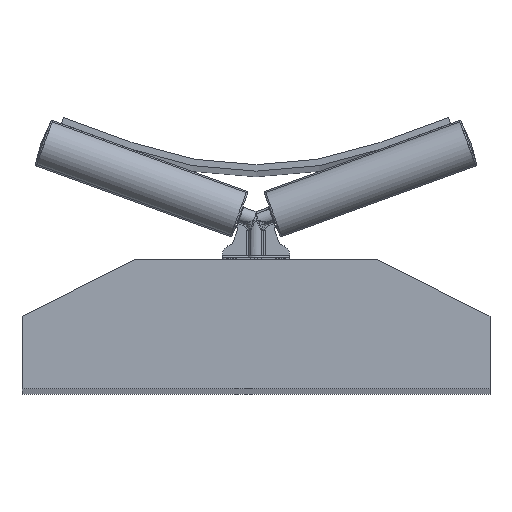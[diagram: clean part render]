
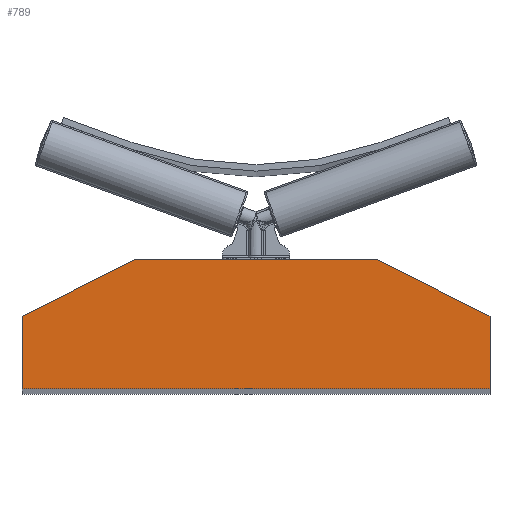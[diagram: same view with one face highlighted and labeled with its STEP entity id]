
A CAD part, top view. The second image highlights one B-rep face of the part: STEP entity #789.
In plain terms, the highlighted planar face has unit normal (0, 0, 1).
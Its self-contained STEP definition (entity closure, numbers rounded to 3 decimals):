
#30 = PLANE ( 'NONE',  #2584 ) ;
#53 = CARTESIAN_POINT ( 'NONE',  ( 0., 0., 2000. ) ) ;
#109 = VERTEX_POINT ( 'NONE', #1621 ) ;
#410 = CARTESIAN_POINT ( 'NONE',  ( 150., 160., 2000. ) ) ;
#535 = DIRECTION ( 'NONE',  ( 0., 1., 0. ) ) ;
#573 = CARTESIAN_POINT ( 'NONE',  ( 290., 0., 2000. ) ) ;
#603 = CARTESIAN_POINT ( 'NONE',  ( -290., 90., 2000. ) ) ;
#689 = CARTESIAN_POINT ( 'NONE',  ( 290., 90., 2000. ) ) ;
#789 = ADVANCED_FACE ( 'NONE', ( #2009 ), #30, .F. ) ;
#1135 = VECTOR ( 'NONE', #2164, 1000. ) ;
#1159 = LINE ( 'NONE', #2321, #1135 ) ;
#1225 = VECTOR ( 'NONE', #2721, 1000. ) ;
#1259 = LINE ( 'NONE', #2708, #1225 ) ;
#1318 = VECTOR ( 'NONE', #4173, 1000. ) ;
#1330 = LINE ( 'NONE', #3879, #1318 ) ;
#1338 = VECTOR ( 'NONE', #4241, 1000. ) ;
#1355 = LINE ( 'NONE', #4284, #1338 ) ;
#1372 = VECTOR ( 'NONE', #4378, 1000. ) ;
#1408 = LINE ( 'NONE', #4404, #1372 ) ;
#1621 = CARTESIAN_POINT ( 'NONE',  ( -290., 0., 2000. ) ) ;
#2009 = FACE_OUTER_BOUND ( 'NONE', #2413, .T. ) ;
#2164 = DIRECTION ( 'NONE',  ( -0.894, -0.447, 0. ) ) ;
#2321 = CARTESIAN_POINT ( 'NONE',  ( -290., 90., 2000. ) ) ;
#2413 = EDGE_LOOP ( 'NONE', ( #2497, #2540, #2570, #2588, #2608, #2639 ) ) ;
#2497 = ORIENTED_EDGE ( 'NONE', *, *, #2766, .T. ) ;
#2540 = ORIENTED_EDGE ( 'NONE', *, *, #2777, .T. ) ;
#2570 = ORIENTED_EDGE ( 'NONE', *, *, #3841, .T. ) ;
#2584 = AXIS2_PLACEMENT_3D ( 'NONE', #53, #5754, #5734 ) ;
#2588 = ORIENTED_EDGE ( 'NONE', *, *, #2752, .T. ) ;
#2608 = ORIENTED_EDGE ( 'NONE', *, *, #2820, .T. ) ;
#2639 = ORIENTED_EDGE ( 'NONE', *, *, #2853, .T. ) ;
#2708 = CARTESIAN_POINT ( 'NONE',  ( -150., 160., 2000. ) ) ;
#2721 = DIRECTION ( 'NONE',  ( -1., 0., 0. ) ) ;
#2752 = EDGE_CURVE ( 'NONE', #5497, #5231, #1408, .T. ) ;
#2766 = EDGE_CURVE ( 'NONE', #5149, #109, #1355, .T. ) ;
#2777 = EDGE_CURVE ( 'NONE', #109, #5107, #1330, .T. ) ;
#2820 = EDGE_CURVE ( 'NONE', #5231, #5490, #1259, .T. ) ;
#2853 = EDGE_CURVE ( 'NONE', #5490, #5149, #1159, .T. ) ;
#3841 = EDGE_CURVE ( 'NONE', #5107, #5497, #5567, .T. ) ;
#3879 = CARTESIAN_POINT ( 'NONE',  ( -290., 0., 2000. ) ) ;
#4173 = DIRECTION ( 'NONE',  ( 1., 0., 0. ) ) ;
#4241 = DIRECTION ( 'NONE',  ( 0., -1., 0. ) ) ;
#4284 = CARTESIAN_POINT ( 'NONE',  ( -290., 0., 2000. ) ) ;
#4378 = DIRECTION ( 'NONE',  ( -0.894, 0.447, 0. ) ) ;
#4404 = CARTESIAN_POINT ( 'NONE',  ( 150., 160., 2000. ) ) ;
#5107 = VERTEX_POINT ( 'NONE', #573 ) ;
#5149 = VERTEX_POINT ( 'NONE', #603 ) ;
#5231 = VERTEX_POINT ( 'NONE', #410 ) ;
#5371 = CARTESIAN_POINT ( 'NONE',  ( 290., 90., 2000. ) ) ;
#5397 = CARTESIAN_POINT ( 'NONE',  ( -150., 160., 2000. ) ) ;
#5490 = VERTEX_POINT ( 'NONE', #5397 ) ;
#5497 = VERTEX_POINT ( 'NONE', #5371 ) ;
#5558 = VECTOR ( 'NONE', #535, 1000. ) ;
#5567 = LINE ( 'NONE', #689, #5558 ) ;
#5734 = DIRECTION ( 'NONE',  ( -1., 0., 0. ) ) ;
#5754 = DIRECTION ( 'NONE',  ( 0., 0., -1. ) ) ;
